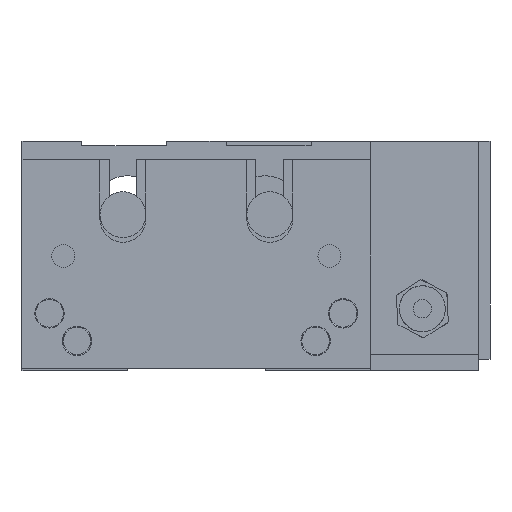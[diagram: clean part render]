
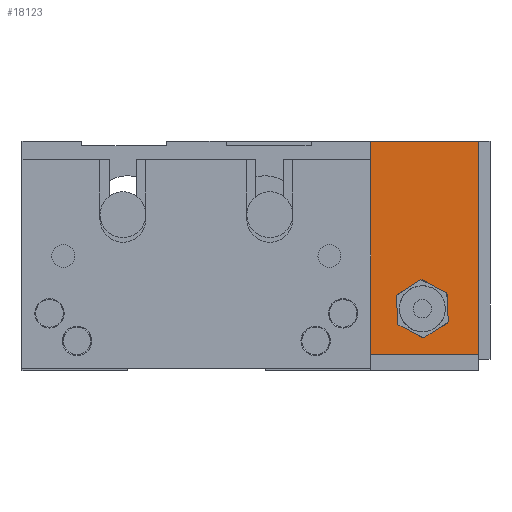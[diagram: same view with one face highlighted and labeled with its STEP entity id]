
A CAD part, front view. The second image highlights one B-rep face of the part: STEP entity #18123.
In plain terms, the highlighted planar face has unit normal (0, -1, 0) as drawn and (0, 0, 1) by its records, which use the part's own axes.
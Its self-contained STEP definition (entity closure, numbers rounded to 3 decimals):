
#15503 = VERTEX_POINT ( 'NONE', #21468 ) ;
#15511 = VERTEX_POINT ( 'NONE', #21461 ) ;
#15514 = VERTEX_POINT ( 'NONE', #21510 ) ;
#15521 = EDGE_CURVE ( 'NONE', #15503, #15511, #21493, .T. ) ;
#15530 = EDGE_CURVE ( 'NONE', #15535, #15531, #21484, .T. ) ;
#15531 = VERTEX_POINT ( 'NONE', #21532 ) ;
#15535 = VERTEX_POINT ( 'NONE', #21524 ) ;
#15586 = EDGE_CURVE ( 'NONE', #15514, #15503, #21624, .T. ) ;
#18115 = EDGE_CURVE ( 'NONE', #15511, #18117, #29456, .T. ) ;
#18116 = ORIENTED_EDGE ( 'NONE', *, *, #18124, .T. ) ;
#18117 = VERTEX_POINT ( 'NONE', #29454 ) ;
#18119 = ORIENTED_EDGE ( 'NONE', *, *, #18115, .T. ) ;
#18120 = ORIENTED_EDGE ( 'NONE', *, *, #15521, .T. ) ;
#18121 = EDGE_CURVE ( 'NONE', #15531, #15535, #29445, .T. ) ;
#18122 = EDGE_LOOP ( 'NONE', ( #18125, #18133 ) ) ;
#18123 = ADVANCED_FACE ( 'NONE', ( #29440, #29409 ), #29404, .F. ) ;
#18124 = EDGE_CURVE ( 'NONE', #18117, #15514, #29437, .T. ) ;
#18125 = ORIENTED_EDGE ( 'NONE', *, *, #18121, .T. ) ;
#18127 = ORIENTED_EDGE ( 'NONE', *, *, #15586, .T. ) ;
#18128 = EDGE_LOOP ( 'NONE', ( #18127, #18120, #18119, #18116 ) ) ;
#18133 = ORIENTED_EDGE ( 'NONE', *, *, #15530, .T. ) ;
#21461 = CARTESIAN_POINT ( 'NONE',  ( 24.5, 0., 13. ) ) ;
#21468 = CARTESIAN_POINT ( 'NONE',  ( 0., 0., 13. ) ) ;
#21481 = CARTESIAN_POINT ( 'NONE',  ( 12.25, 36.5, 13. ) ) ;
#21484 = CIRCLE ( 'NONE', #21499, 5. ) ;
#21485 = DIRECTION ( 'NONE',  ( 1., 0., 0. ) ) ;
#21486 = VECTOR ( 'NONE', #21485, 1000. ) ;
#21493 = LINE ( 'NONE', #21500, #21486 ) ;
#21499 = AXIS2_PLACEMENT_3D ( 'NONE', #21481, #21530, #21529 ) ;
#21500 = CARTESIAN_POINT ( 'NONE',  ( 0., 0., 13. ) ) ;
#21510 = CARTESIAN_POINT ( 'NONE',  ( 0., 46.5, 13. ) ) ;
#21524 = CARTESIAN_POINT ( 'NONE',  ( 17.25, 36.5, 13. ) ) ;
#21529 = DIRECTION ( 'NONE',  ( -1., 0., 0. ) ) ;
#21530 = DIRECTION ( 'NONE',  ( 0., 0., -1. ) ) ;
#21532 = CARTESIAN_POINT ( 'NONE',  ( 7.25, 36.5, 13. ) ) ;
#21614 = DIRECTION ( 'NONE',  ( 0., -1., 0. ) ) ;
#21615 = VECTOR ( 'NONE', #21614, 1000. ) ;
#21616 = CARTESIAN_POINT ( 'NONE',  ( 0., 0., 13. ) ) ;
#21624 = LINE ( 'NONE', #21616, #21615 ) ;
#29404 = PLANE ( 'NONE',  #29446 ) ;
#29409 = FACE_OUTER_BOUND ( 'NONE', #18128, .T. ) ;
#29431 = DIRECTION ( 'NONE',  ( -1., 0., 0. ) ) ;
#29433 = DIRECTION ( 'NONE',  ( -1., 0., 0. ) ) ;
#29434 = VECTOR ( 'NONE', #29433, 1000. ) ;
#29436 = CARTESIAN_POINT ( 'NONE',  ( 0., 46.5, 13. ) ) ;
#29437 = LINE ( 'NONE', #29436, #29434 ) ;
#29440 = FACE_BOUND ( 'NONE', #18122, .T. ) ;
#29441 = DIRECTION ( 'NONE',  ( -1., 0., 0. ) ) ;
#29442 = DIRECTION ( 'NONE',  ( 0., 0., -1. ) ) ;
#29445 = CIRCLE ( 'NONE', #29455, 5. ) ;
#29446 = AXIS2_PLACEMENT_3D ( 'NONE', #29458, #29457, #29431 ) ;
#29447 = DIRECTION ( 'NONE',  ( 0., 1., 0. ) ) ;
#29448 = VECTOR ( 'NONE', #29447, 1000. ) ;
#29449 = CARTESIAN_POINT ( 'NONE',  ( 24.5, 0., 13. ) ) ;
#29450 = CARTESIAN_POINT ( 'NONE',  ( 12.25, 36.5, 13. ) ) ;
#29454 = CARTESIAN_POINT ( 'NONE',  ( 24.5, 46.5, 13. ) ) ;
#29455 = AXIS2_PLACEMENT_3D ( 'NONE', #29450, #29442, #29441 ) ;
#29456 = LINE ( 'NONE', #29449, #29448 ) ;
#29457 = DIRECTION ( 'NONE',  ( 0., 0., -1. ) ) ;
#29458 = CARTESIAN_POINT ( 'NONE',  ( 0., 46.5, 13. ) ) ;
